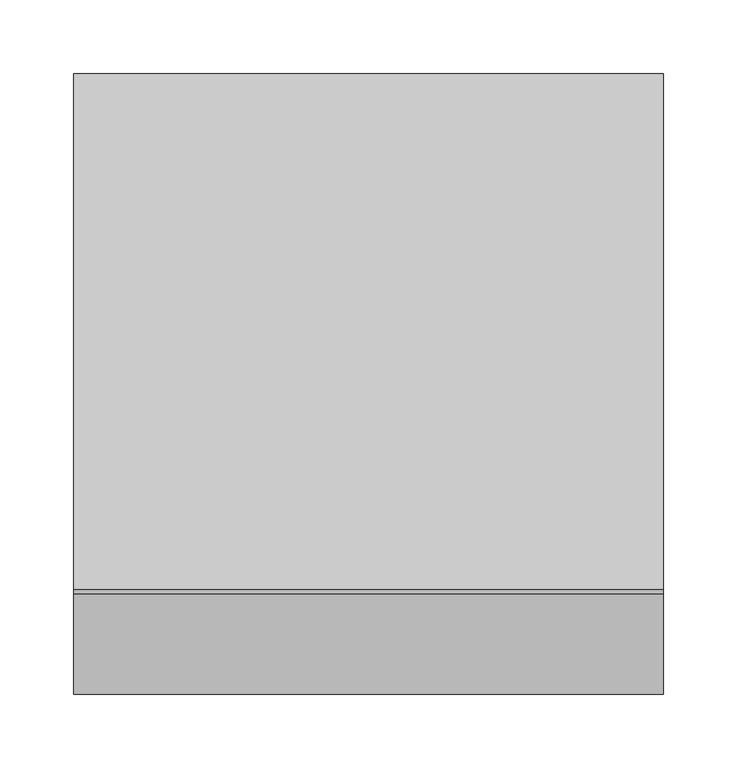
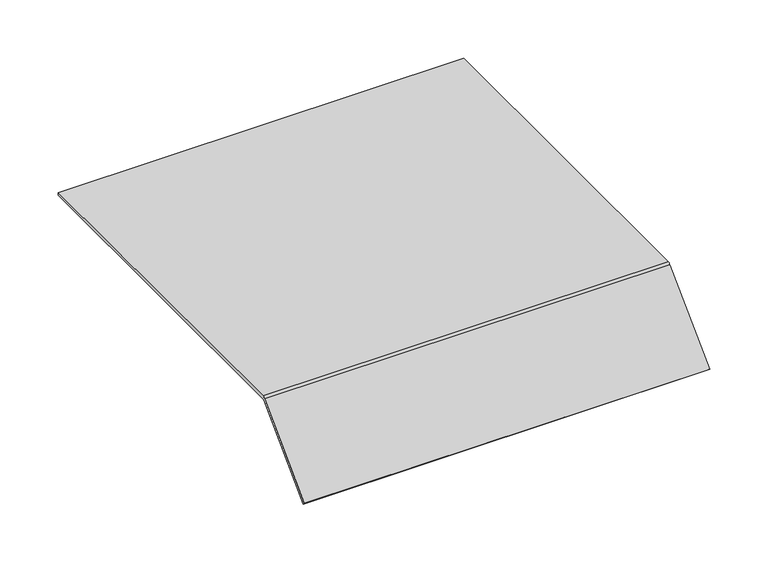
"""IFC4 building model written with IfcOpenShell, lengths in millimetres: proxy geometry, Electrical_Installation_Hager_Blank-Cover-400mm-Single-Sided-Height-70mm : Electrical_Installation_Hager_Blank-Cover-400mm-Single-Sided-Height-70mm."""

from ifc_helpers import new_model, si_unit, point, frame, frame_2d, origin, place, context, project, spatial, polyline, circle_curve, trimmed, segment, composite_curve, outline, extrude, source, transform, mapped, element, save


def electrical_fixtures_79a94ea6(model_context):
    return source(origin(), model_context, "Body", "SweptSolid", [
        extrude(outline(composite_curve([segment(polyline([(175.0, 40.5), (175.0, 37.5), (-174.8229541, 37.5)]), True, "CONTINUOUS"), segment(trimmed(circle_curve(frame_2d((-174.8229541, 36.0725733)), 1.4274267), [point((-174.8229541, 37.5))], [point((-175.8322972, 37.0819164))], True, "CARTESIAN"), True, "CONTINUOUS"), segment(polyline([(-175.8322972, 37.0819164), (-243.6627596, -30.7485461), (-245.78408, -28.6272257), (-177.8206472, 39.336207)]), True, "CONTINUOUS"), segment(trimmed(circle_curve(frame_2d((-175.0110025, 36.5265623)), 3.9734377), [point((-177.8206472, 39.336207))], [point((-175.0110025, 40.5))], False, "CARTESIAN"), True, "CONTINUOUS"), segment(polyline([(-175.0110025, 40.5), (175.0, 40.5)]), True, "CONTINUOUS")], self_intersect=False)), frame((0.0, 0.0, 0.0), z_axis=(1.0, 0.0, 0.0), x_axis=(0.0, 1.0, 0.0)), (0.0, 0.0, 1.0), 400.0),
    ])


if __name__ == "__main__":
    model = new_model("IFC4")
    model_context = context("Model", 3, world=origin())
    ifc_project = project(units=[si_unit("LENGTHUNIT", "METRE", prefix="MILLI")], contexts=[model_context])
    site = spatial("IfcSite", under=ifc_project)
    building = spatial("IfcBuilding", under=site)
    placement = place(None, origin())
    electrical_fixtures_shape = electrical_fixtures_79a94ea6(model_context)
    element("IfcBuildingElementProxy", 1, Name="Electrical_Installation_Hager_Blank-Cover-400mm-Single-Sided-Height-70mm : Electrical_Installation_Hager_Blank-Cover-400mm-Single-Sided-Height-70mm", ObjectType="Electrical_Installation_Hager_Blank-Cover-400mm-Single-Sided-Height-70mm : Electrical_Installation_Hager_Blank-Cover-400mm-Single-Sided-Height-70mm", at=placement, inside=building, context=model_context, shape_type="MappedRepresentation", body=[
        mapped(electrical_fixtures_shape, transform((0.0, 0.0, 0.0), x_axis=(1.0, 0.0, 0.0), y_axis=(0.0, 1.0, 0.0), z_axis=(0.0, 0.0, 1.0))),
    ])
    save(model, "model.ifc")
